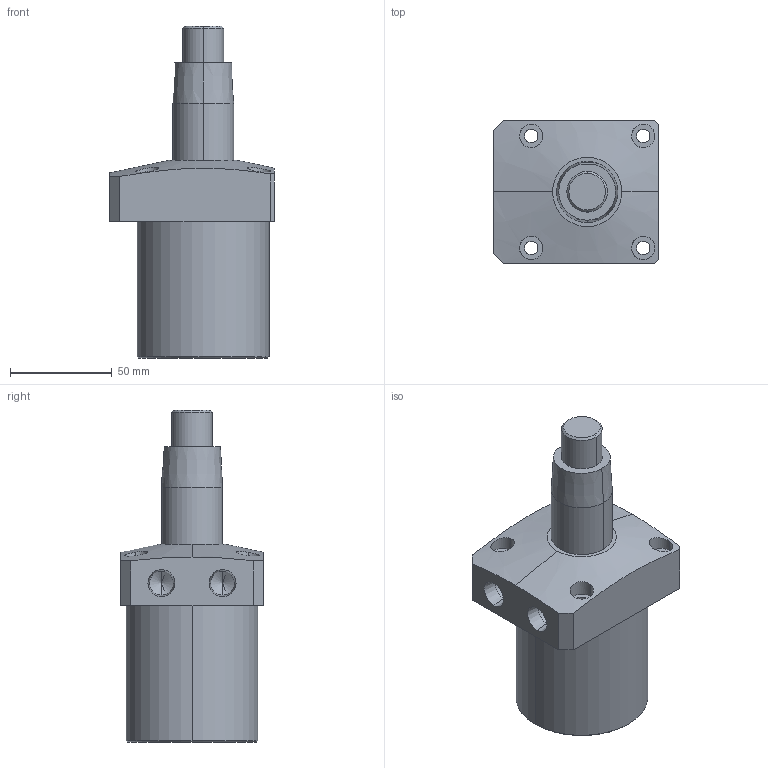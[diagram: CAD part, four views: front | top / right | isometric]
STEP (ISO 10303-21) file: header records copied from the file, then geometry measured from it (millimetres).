
FILE_DESCRIPTION (( 'STEP AP214' ), '1' );
FILE_NAME ('SC02-652-LH-TOP-TAPER.STEP', '2021-08-23T05:00:24', ( '' ), ( '' ), 'SwSTEP 2.0', 'SolidWorks 2019', '' );
FILE_SCHEMA (( 'AUTOMOTIVE_DESIGN' ));
Length unit declared in the file: millimetre
Products named in the file (3): 65-taper-piston; 65-body; SC02-652-LH-TOP-TAPER
Assembly tree (2 placements, depth 2):
  SC02-652-LH-TOP-TAPER
    65-body
    65-taper-piston
Bounding box: 81 x 70 x 163 mm (x, y, z)
Volume: 370581.9 mm3; surface area: 53729.1 mm2
Topology: 2 solids, 2 shells, 73 faces, 166 edges, 104 vertices
Faces by surface type: cylinder 32, plane 25, cone 16
Entity records: 2521 total; most frequent: CARTESIAN_POINT 749, DIRECTION 368, ORIENTED_EDGE 324, EDGE_CURVE 162, AXIS2_PLACEMENT_3D 148, VERTEX_POINT 104, EDGE_LOOP 92, ADVANCED_FACE 73
